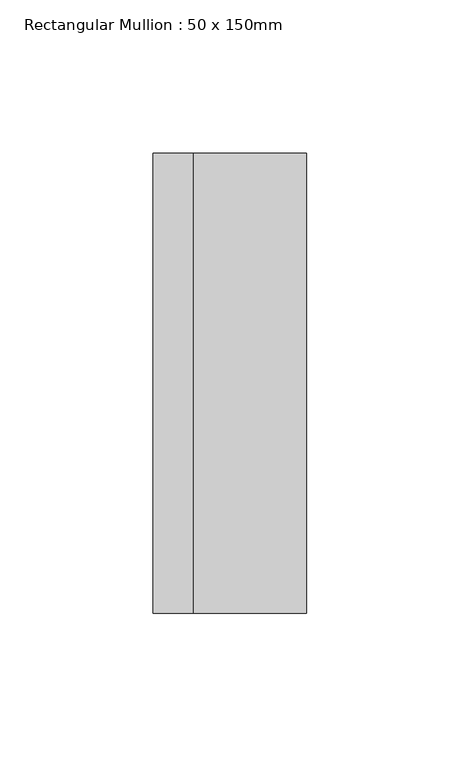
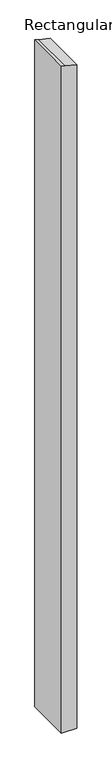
"""IFC4 building model written with IfcOpenShell, lengths in millimetres: member geometry, Rectangular Mullion : 50 x 150mm."""

import ifcopenshell
import ifcopenshell.guid

model = None  # the IFC model being written
_history = None  # IfcOwnerHistory: only IFC2X3 demands one
_inside = {}  # id of a spatial element -> (the spatial element, [elements in it])
_under = {}  # id of a project, library or spatial element -> (it, [spatial elements below it])
_declared = {}  # id of a project -> (the project, [libraries it declares])
_typed = {}  # id of a type object -> (the type object, [elements of that type])
_made_of = {}  # id of a material, layer set ... -> (it, [elements and type objects made of it])


def new_model(schema):
    """Start an empty IFC model of exactly this schema.

    Asked for "IFC4X3", IfcOpenShell would pick the latest addendum, in which some entities
    have other attributes; the version numbers below select the first issue.
    IFC2X3 requires an IfcOwnerHistory on every rooted entity: one is made here for all.
    """
    global model, _history
    if schema == "IFC4X3":
        model = ifcopenshell.file(schema_version=(4, 3, 0, 0))
    else:
        model = ifcopenshell.file(schema=schema)
    _inside.clear()
    _under.clear()
    _declared.clear()
    _typed.clear()
    _made_of.clear()
    _history = None
    if model.schema == "IFC2X3":
        org = make("IfcOrganization", Name="unknown")
        user = make(
            "IfcPersonAndOrganization",
            ThePerson=make("IfcPerson", FamilyName="unknown"),
            TheOrganization=org,
        )
        app = make(
            "IfcApplication",
            ApplicationDeveloper=org,
            Version="unknown",
            ApplicationFullName="unknown",
            ApplicationIdentifier="unknown",
        )
        _history = make(
            "IfcOwnerHistory",
            OwningUser=user,
            OwningApplication=app,
            ChangeAction="ADDED",
            CreationDate=0,
        )
    return model


def make(cls, **values):
    """One entity of the class cls with the attributes given. An attribute that is None is left unset."""
    return model.create_entity(
        cls, **{name: value for name, value in values.items() if value is not None}
    )


def rooted(cls, **values):
    """An entity with a GlobalId (a new one), such as an element, a storey or a relation."""
    return make(cls, GlobalId=ifcopenshell.guid.new(), OwnerHistory=_history, **values)


def si_unit(unit_type, name, prefix=None):
    """IfcSIUnit, for example si_unit("LENGTHUNIT", "METRE", prefix="MILLI")."""
    return make("IfcSIUnit", UnitType=unit_type, Prefix=prefix, Name=name)


def assignment(units):
    """IfcUnitAssignment: the units of a project."""
    return None if units is None else make("IfcUnitAssignment", Units=units)


def point(xyz):
    """IfcCartesianPoint."""
    return None if xyz is None else make("IfcCartesianPoint", Coordinates=xyz)


def direction(xyz):
    """IfcDirection."""
    return None if xyz is None else make("IfcDirection", DirectionRatios=xyz)


def frame(location, z_axis=None, x_axis=None):
    """IfcAxis2Placement3D, a coordinate frame: its origin and axes. An axis left out is left unset."""
    return make(
        "IfcAxis2Placement3D",
        Location=point(location),
        Axis=direction(z_axis),
        RefDirection=direction(x_axis),
    )


def origin():
    """The frame at (0, 0, 0) with its axes left unset."""
    return frame((0.0, 0.0, 0.0))


def place(relative_to, where):
    """IfcLocalPlacement: puts the frame where relative to a parent placement (None: the world)."""
    return make(
        "IfcLocalPlacement", PlacementRelTo=relative_to, RelativePlacement=where
    )


def context(
    kind, dimensions, precision=None, world=None, true_north=None, identifier=None
):
    """IfcGeometricRepresentationContext, for example the 3D "Model" context."""
    return make(
        "IfcGeometricRepresentationContext",
        ContextIdentifier=identifier,
        ContextType=kind,
        CoordinateSpaceDimension=dimensions,
        Precision=precision,
        WorldCoordinateSystem=world,
        TrueNorth=true_north,
    )


def project(units=None, contexts=None):
    """IfcProject with its units and contexts."""
    return rooted(
        "IfcProject",
        Name="project",
        RepresentationContexts=contexts,
        UnitsInContext=assignment(units),
    )


def spatial(cls, under=None, at=None, **own):
    """A site, building, storey or space (cls), placed at a placement, below another one or the project."""
    s = rooted(cls, ObjectPlacement=at, **own)
    if under is not None:
        _under.setdefault(under.id(), (under, []))[1].append(s)
    return s


def faces_of(points, faces, orient=None, outer=None):
    """IfcFace entities. A face is a list of loops; a loop is a list of indices into points, from 0.

    orient and outer hold one flag for each loop. By default every Orientation is true, the
    first loop of a face is its IfcFaceOuterBound and the others are IfcFaceBound.
    """
    made = []
    for i, loops in enumerate(faces):
        bounds = []
        for j, loop in enumerate(loops):
            is_outer = j == 0 if outer is None else outer[i][j]
            bounds.append(
                make(
                    "IfcFaceOuterBound" if is_outer else "IfcFaceBound",
                    Bound=make("IfcPolyLoop", Polygon=[points[k] for k in loop]),
                    Orientation=True if orient is None else orient[i][j],
                )
            )
        made.append(make("IfcFace", Bounds=bounds))
    return made


def faceted_brep(points, faces, orient=None, outer=None, voids=None):
    """IfcFacetedBrep: a solid bounded by flat faces; with voids (closed shells), ...WithVoids."""
    shared = [point(p) for p in points]
    hull = make("IfcClosedShell", CfsFaces=faces_of(shared, faces, orient, outer))
    if voids is None:
        return make("IfcFacetedBrep", Outer=hull)
    return make(
        "IfcFacetedBrepWithVoids",
        Outer=hull,
        Voids=[
            make(cls, CfsFaces=faces_of(shared, fs, o, b)) for cls, fs, o, b in voids
        ],
    )


def shape(context_of_items, identifier, shape_type, items):
    """IfcShapeRepresentation: the items that make up one representation, for example the "Body"."""
    return make(
        "IfcShapeRepresentation",
        ContextOfItems=context_of_items,
        RepresentationIdentifier=identifier,
        RepresentationType=shape_type,
        Items=items,
    )


def source(mapping_origin, context_of_items, identifier, shape_type, items):
    """IfcRepresentationMap: a shape defined once, which mapped items show again and again."""
    return make(
        "IfcRepresentationMap",
        MappingOrigin=mapping_origin,
        MappedRepresentation=shape(context_of_items, identifier, shape_type, items),
    )


def transform(
    local_origin,
    x_axis=None,
    y_axis=None,
    z_axis=None,
    scale=None,
    scale2=None,
    scale3=None,
    uniform=True,
):
    """IfcCartesianTransformationOperator3D, or its non-uniform kind. x_axis, y_axis, z_axis: its Axis1, 2, 3."""
    if uniform:
        return make(
            "IfcCartesianTransformationOperator3D",
            Axis1=direction(x_axis),
            Axis2=direction(y_axis),
            LocalOrigin=point(local_origin),
            Scale=scale,
            Axis3=direction(z_axis),
        )
    return make(
        "IfcCartesianTransformationOperator3DnonUniform",
        Axis1=direction(x_axis),
        Axis2=direction(y_axis),
        LocalOrigin=point(local_origin),
        Scale=scale,
        Axis3=direction(z_axis),
        Scale2=scale2,
        Scale3=scale3,
    )


def mapped(mapping_source, mapping_target):
    """IfcMappedItem: shows the shape of a source again, moved by a transform."""
    return make(
        "IfcMappedItem", MappingSource=mapping_source, MappingTarget=mapping_target
    )


def made_of(thing, what):
    """Note that an element or type object is made of a material, layer set ...; save() writes the relation."""
    if what is not None:
        _made_of.setdefault(what.id(), (what, []))[1].append(thing)
    return thing


def element(
    cls,
    number,
    at=None,
    inside=None,
    cuts=None,
    type_object=None,
    material=None,
    context=None,
    identifier="Body",
    shape_type=None,
    held_by="IfcProductDefinitionShape",
    body=None,
    shapes=None,
    **own,
):
    """One element of the class cls, such as IfcWall. Its Tag is "e" and its number.

    at: its placement. inside: the storey or other place that contains it. cuts: it is an
    opening in that element (IfcRelVoidsElement). A single representation is given by context,
    identifier, shape_type and body (its items); several are given by shapes. held_by: the class
    of the entity that holds the representations. save() writes the other relations.
    """
    e = rooted(cls, Tag="e%d" % number, ObjectPlacement=at, **own)
    if body is not None:
        shapes = [shape(context, identifier, shape_type, body)]
    if shapes is not None:
        e.Representation = make(held_by, Representations=shapes)
    if inside is not None:
        _inside.setdefault(inside.id(), (inside, []))[1].append(e)
    if cuts is not None:
        rooted(
            "IfcRelVoidsElement", RelatingBuildingElement=cuts, RelatedOpeningElement=e
        )
    if type_object is not None:
        _typed.setdefault(type_object.id(), (type_object, []))[1].append(e)
    return made_of(e, material)


def aggregate(whole, parts):
    """IfcRelAggregates: a whole, such as a stair, and the parts it consists of."""
    return rooted("IfcRelAggregates", RelatingObject=whole, RelatedObjects=parts)


def save(model, path):
    """Write the relations noted so far, then the file.

    IfcRelAggregates (storeys below a building ...), IfcRelContainedInSpatialStructure (elements
    in a storey), IfcRelDefinesByType, IfcRelAssociatesMaterial and IfcRelDeclares: one each for
    every whole, place, type object, material and project.
    """
    for whole, parts in _under.values():
        aggregate(whole, parts)
    for where, things in _inside.values():
        rooted(
            "IfcRelContainedInSpatialStructure",
            RelatedElements=things,
            RelatingStructure=where,
        )
    for kind, things in _typed.values():
        rooted("IfcRelDefinesByType", RelatedObjects=things, RelatingType=kind)
    for what, things in _made_of.values():
        rooted("IfcRelAssociatesMaterial", RelatedObjects=things, RelatingMaterial=what)
    for by, libraries in _declared.values():
        rooted("IfcRelDeclares", RelatingContext=by, RelatedDefinitions=libraries)
    model.write(path)


def rectangular_mullion_50_x_150mm_44132645(model_context):
    return source(origin(), model_context, "Body", "Brep", [
        faceted_brep([(25.0, 75.0, -2349.6913513), (25.0, -75.0, -2349.6913513), (-25.0, -75.0, -2349.6913513), (-25.0, 75.0, -2349.6913513), (-25.0, 75.0, -45.3775724), (-11.8150492, 75.0, -48.5839954), (25.0, 75.0, -57.5956088), (-25.0, -75.0, -45.3775724), (25.0, -75.0, -57.5956088), (-11.8150625, -75.0, -48.5840502)], [[[0, 1, 2, 3]], [[4, 5, 6, 0, 3]], [[7, 4, 3, 2]], [[8, 9, 7, 2, 1]], [[6, 8, 1, 0]], [[6, 5, 9, 8]], [[5, 4, 7, 9]]]),
    ])


if __name__ == "__main__":
    model = new_model("IFC4")
    model_context = context("Model", 3, world=origin())
    ifc_project = project(units=[si_unit("LENGTHUNIT", "METRE", prefix="MILLI")], contexts=[model_context])
    site = spatial("IfcSite", under=ifc_project)
    building = spatial("IfcBuilding", under=site)
    placement = place(None, origin())
    rectangular_mullion_50_x_150mm_shape = rectangular_mullion_50_x_150mm_44132645(model_context)
    element("IfcMember", 1, ObjectType="Rectangular Mullion : 50 x 150mm", at=placement, inside=building, context=model_context, shape_type="MappedRepresentation", body=[
        mapped(rectangular_mullion_50_x_150mm_shape, transform((0.0, 0.0, 0.0), x_axis=(1.0, 0.0, 0.0), y_axis=(0.0, 1.0, 0.0), z_axis=(0.0, 0.0, 1.0))),
    ])
    save(model, "model.ifc")
